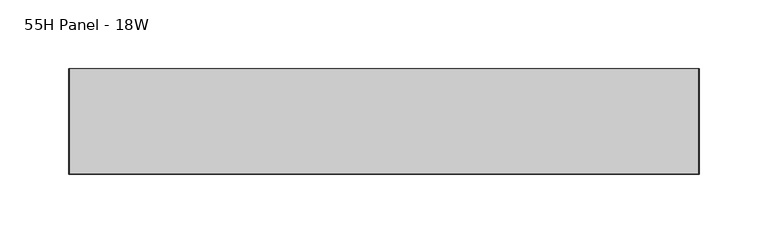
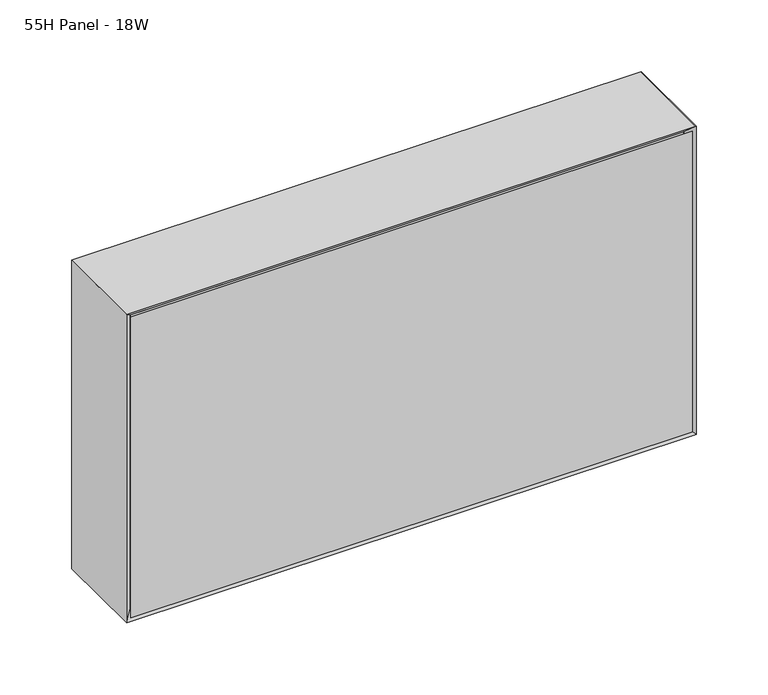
"""IFC4 building model written with IfcOpenShell, lengths in millimetres: furniture geometry, Steelcase - Montage - Frame - 10H - Enhanced Standard - Single Stack-On : 55H Panel - 18W."""

from ifc_helpers import new_model, si_unit, frame, origin, place, context, project, spatial, polyline, outline, extrude, faceted_brep, source, transform, mapped, element, save


def furniture_55h_panel_18w_7551602b(model_context):
    return source(origin(), model_context, "Body", "SolidModel", [
        faceted_brep([(447.6750027, 31.7500194, 1651.0127415), (9.5250028, 31.7500194, 1651.0127415), (9.5250028, 31.7500194, 1408.1125), (447.6750027, 31.7500194, 1408.1125), (454.025, 38.1000194, 1657.3627415), (454.025, 38.1000194, 1401.7625), (3.175, 38.1000194, 1401.7625), (3.175, 38.1000194, 1657.3627415)], [[[0, 1, 2, 3]], [[4, 5, 6, 7]], [[4, 0, 3, 5]], [[5, 3, 2, 6]], [[6, 2, 1, 7]], [[7, 1, 0, 4]]]),
        faceted_brep([(447.6750027, -31.7500194, 1651.0127415), (447.6750027, -31.7500194, 1408.1125), (9.5250028, -31.7500194, 1408.1125), (9.5250028, -31.7500194, 1651.0127415), (454.025, -38.1000194, 1657.3627415), (3.175, -38.1000194, 1657.3627415), (3.175, -38.1000194, 1401.7625), (454.025, -38.1000194, 1401.7625)], [[[0, 1, 2, 3]], [[4, 5, 6, 7]], [[4, 7, 1, 0]], [[7, 6, 2, 1]], [[6, 5, 3, 2]], [[5, 4, 0, 3]]]),
        faceted_brep([(457.2, -38.1000015, 1398.5875), (457.2, 38.1000015, 1398.5875), (457.2, 38.1000015, 1660.5377415), (457.2, -38.1000106, 1660.5377414), (0.0, 38.1000015, 1398.5875), (0.0, -38.1000015, 1398.5875), (0.0, -38.1000015, 1660.5377415), (0.0, 38.1000015, 1660.5377415), (6.3500484, 31.749953, 1404.9375484), (450.8499879, 31.749953, 1404.9375484), (6.35, -31.749953, 1404.9375484), (450.8499879, -31.749953, 1404.9375484), (6.3500169, 31.7499846, 1654.1877245), (6.3500012, -31.7500003, 1654.187693), (450.8499879, -31.7499973, 1654.187693), (450.8499879, 31.7499885, 1654.1877293)], [[[0, 1, 2, 3]], [[4, 5, 6, 7]], [[1, 0, 5, 4]], [[1, 4, 8, 9]], [[9, 8, 10, 11]], [[5, 0, 11, 10]], [[4, 7, 12, 8]], [[6, 5, 10, 13]], [[10, 8, 12, 13]], [[9, 11, 14, 15]], [[0, 3, 14, 11]], [[2, 1, 9, 15]], [[3, 2, 15, 14]], [[7, 6, 13, 12]]]),
        faceted_brep([(457.2, -38.1000015, 1660.5377415), (0.0, -38.1000015, 1660.5377415), (6.3500484, -31.749953, 1654.187693), (450.8499516, -31.749953, 1654.187693), (6.3500484, 31.749953, 1654.187693), (450.8499516, 31.749953, 1654.187693), (0.0, 38.1000015, 1660.5377415), (457.2, 38.1000015, 1660.5377415)], [[[0, 1, 2, 3]], [[3, 2, 4, 5]], [[6, 7, 5, 4]], [[1, 0, 7, 6]], [[2, 1, 6, 4]], [[0, 3, 5, 7]]]),
        extrude(outline(polyline([(450.8499879, 31.7500016), (450.8499879, -31.7499985), (6.35, -31.7499985), (6.35, 31.7500016), (450.8499879, 31.7500016)])), frame((0.0, 0.0, 1404.9327145), z_axis=(0.0, 0.0, 1.0), x_axis=(1.0, 0.0, 0.0)), (0.0, 0.0, 1.0), 249.2549785),
    ])


if __name__ == "__main__":
    model = new_model("IFC4")
    model_context = context("Model", 3, world=origin())
    ifc_project = project(units=[si_unit("LENGTHUNIT", "METRE", prefix="MILLI")], contexts=[model_context])
    site = spatial("IfcSite", under=ifc_project)
    building = spatial("IfcBuilding", under=site)
    placement = place(None, origin())
    furniture_55h_panel_18w_shape = furniture_55h_panel_18w_7551602b(model_context)
    element("IfcFurniture", 1, ObjectType="Steelcase - Montage - Frame - 10H - Enhanced Standard - Single Stack-On : 55H Panel - 18W", at=placement, inside=building, context=model_context, shape_type="MappedRepresentation", body=[
        mapped(furniture_55h_panel_18w_shape, transform((0.0, 0.0, 0.0), x_axis=(1.0, 0.0, 0.0), y_axis=(0.0, 1.0, 0.0), z_axis=(0.0, 0.0, 1.0))),
    ])
    save(model, "model.ifc")
